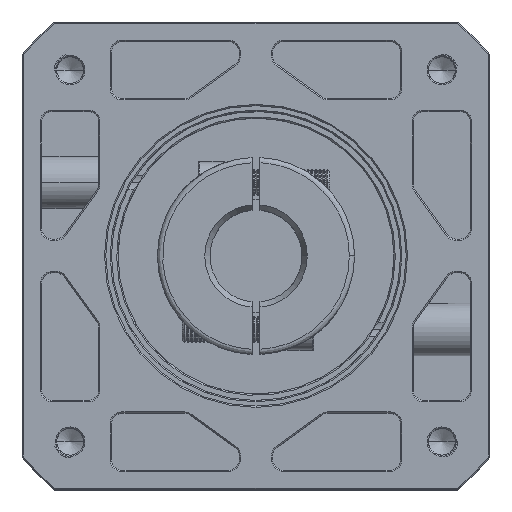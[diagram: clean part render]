
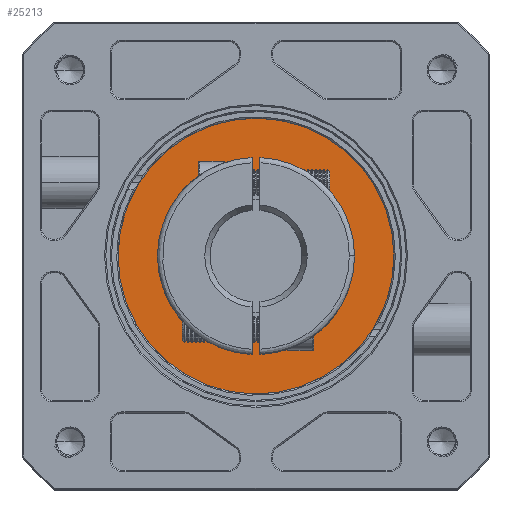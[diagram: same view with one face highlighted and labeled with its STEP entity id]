
A CAD part, top view. The second image highlights one B-rep face of the part: STEP entity #25213.
In plain terms, the highlighted planar face has unit normal (0, 0, 1).
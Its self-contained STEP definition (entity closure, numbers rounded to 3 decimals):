
#6073 = CARTESIAN_POINT ( 'NONE',  ( -97.295, 74.934, -52.564 ) ) ;
#11656 = DIRECTION ( 'NONE',  ( -1., 0., 0. ) ) ;
#12670 = VERTEX_POINT ( 'NONE', #138293 ) ;
#24502 = AXIS2_PLACEMENT_3D ( 'NONE', #99748, #67909, #11656 ) ;
#24644 = AXIS2_PLACEMENT_3D ( 'NONE', #133329, #65696, #120726 ) ;
#25213 = ADVANCED_FACE ( 'NONE', ( #116332, #86929 ), #97082, .F. ) ;
#25447 = EDGE_CURVE ( 'NONE', #118224, #125533, #100627, .T. ) ;
#25788 = ORIENTED_EDGE ( 'NONE', *, *, #90377, .T. ) ;
#33696 = AXIS2_PLACEMENT_3D ( 'NONE', #6073, #106216, #128043 ) ;
#35864 = EDGE_CURVE ( 'NONE', #127616, #12670, #77776, .T. ) ;
#46868 = DIRECTION ( 'NONE',  ( 0., 0., -1. ) ) ;
#55443 = AXIS2_PLACEMENT_3D ( 'NONE', #91810, #46868, #124716 ) ;
#62477 = ORIENTED_EDGE ( 'NONE', *, *, #25447, .T. ) ;
#65696 = DIRECTION ( 'NONE',  ( 0., 0., -1. ) ) ;
#67909 = DIRECTION ( 'NONE',  ( 0., 0., -1. ) ) ;
#71177 = CIRCLE ( 'NONE', #55443, 30.5 ) ;
#77776 = CIRCLE ( 'NONE', #33696, 52.5 ) ;
#85063 = CARTESIAN_POINT ( 'NONE',  ( -97.295, 74.934, -52.564 ) ) ;
#86929 = FACE_OUTER_BOUND ( 'NONE', #112801, .T. ) ;
#90377 = EDGE_CURVE ( 'NONE', #125533, #118224, #71177, .T. ) ;
#91810 = CARTESIAN_POINT ( 'NONE',  ( -97.295, 74.934, -52.564 ) ) ;
#94093 = EDGE_LOOP ( 'NONE', ( #62477, #25788 ) ) ;
#96121 = DIRECTION ( 'NONE',  ( 0., 0., -1. ) ) ;
#97082 = PLANE ( 'NONE',  #119607 ) ;
#97403 = ORIENTED_EDGE ( 'NONE', *, *, #35864, .F. ) ;
#99748 = CARTESIAN_POINT ( 'NONE',  ( -97.295, 74.934, -52.564 ) ) ;
#100623 = CARTESIAN_POINT ( 'NONE',  ( -66.795, 74.934, -52.564 ) ) ;
#100627 = CIRCLE ( 'NONE', #24644, 30.5 ) ;
#101811 = CIRCLE ( 'NONE', #24502, 52.5 ) ;
#102137 = CARTESIAN_POINT ( 'NONE',  ( -44.795, 74.934, -52.564 ) ) ;
#106216 = DIRECTION ( 'NONE',  ( 0., 0., -1. ) ) ;
#107239 = DIRECTION ( 'NONE',  ( -1., 0., 0. ) ) ;
#107779 = CARTESIAN_POINT ( 'NONE',  ( -127.795, 74.934, -52.564 ) ) ;
#110610 = ORIENTED_EDGE ( 'NONE', *, *, #127418, .F. ) ;
#112801 = EDGE_LOOP ( 'NONE', ( #110610, #97403 ) ) ;
#116332 = FACE_BOUND ( 'NONE', #94093, .T. ) ;
#118224 = VERTEX_POINT ( 'NONE', #100623 ) ;
#119607 = AXIS2_PLACEMENT_3D ( 'NONE', #85063, #96121, #107239 ) ;
#120726 = DIRECTION ( 'NONE',  ( 1., 0., 0. ) ) ;
#124716 = DIRECTION ( 'NONE',  ( 1., 0., 0. ) ) ;
#125533 = VERTEX_POINT ( 'NONE', #107779 ) ;
#127418 = EDGE_CURVE ( 'NONE', #12670, #127616, #101811, .T. ) ;
#127616 = VERTEX_POINT ( 'NONE', #102137 ) ;
#128043 = DIRECTION ( 'NONE',  ( -1., 0., 0. ) ) ;
#133329 = CARTESIAN_POINT ( 'NONE',  ( -97.295, 74.934, -52.564 ) ) ;
#138293 = CARTESIAN_POINT ( 'NONE',  ( -149.795, 74.934, -52.564 ) ) ;
